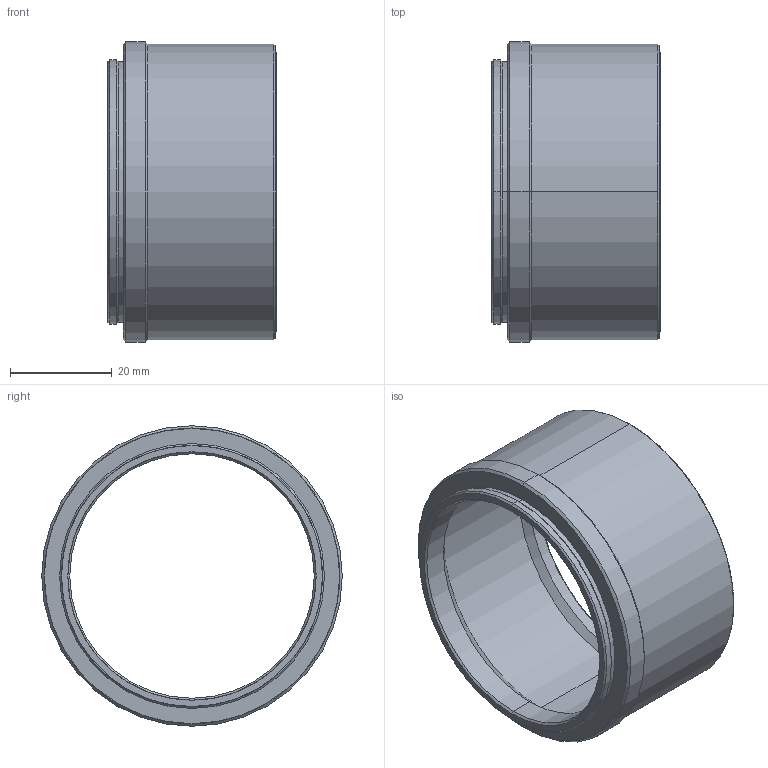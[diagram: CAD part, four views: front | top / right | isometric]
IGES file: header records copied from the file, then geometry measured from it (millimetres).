
Start section: SolidWorks IGES file using analytic representation for surfaces
Bounding box: 33 x 59 x 59 mm (x, y, z)
Surface area: 13133.7 mm2 (no closed solid volume)
Topology: 0 solids, 0 shells, 38 faces, 648 edges, 648 vertices
Faces by surface type: revolution 34, bspline 4
